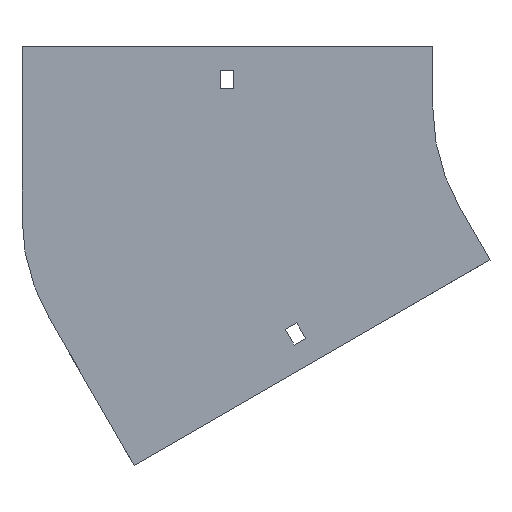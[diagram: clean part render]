
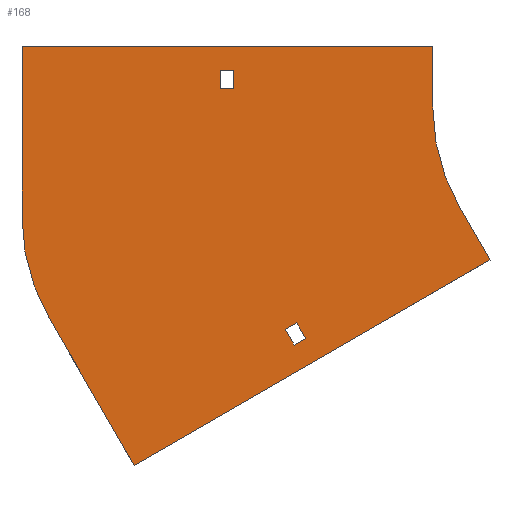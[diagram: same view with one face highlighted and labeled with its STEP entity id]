
A CAD part, front view. The second image highlights one B-rep face of the part: STEP entity #168.
In plain terms, the highlighted planar face has unit normal (0, -1, 0).
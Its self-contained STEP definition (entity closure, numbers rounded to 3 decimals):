
#27 = ORIENTED_EDGE ( 'NONE', *, *, #990, .F. ) ;
#30 = LINE ( 'NONE', #1203, #1165 ) ;
#32 = VERTEX_POINT ( 'NONE', #467 ) ;
#39 = VERTEX_POINT ( 'NONE', #934 ) ;
#48 = LINE ( 'NONE', #1691, #1322 ) ;
#50 = ORIENTED_EDGE ( 'NONE', *, *, #1058, .F. ) ;
#94 = VERTEX_POINT ( 'NONE', #642 ) ;
#95 = EDGE_CURVE ( 'NONE', #1770, #1079, #1098, .T. ) ;
#103 = CARTESIAN_POINT ( 'NONE',  ( -205.25, 0., 9. ) ) ;
#127 = CARTESIAN_POINT ( 'NONE',  ( -168.752, 0., -118.213 ) ) ;
#132 = VERTEX_POINT ( 'NONE', #1146 ) ;
#168 = ADVANCED_FACE ( 'NONE', ( #661, #689, #1280 ), #1137, .T. ) ;
#196 = VERTEX_POINT ( 'NONE', #1709 ) ;
#197 = CARTESIAN_POINT ( 'NONE',  ( -198.75, 0., 18. ) ) ;
#210 = DIRECTION ( 'NONE',  ( 0., -1., 0. ) ) ;
#228 = EDGE_LOOP ( 'NONE', ( #819, #749, #1803, #1155 ) ) ;
#253 = LINE ( 'NONE', #1900, #1157 ) ;
#265 = DIRECTION ( 'NONE',  ( -0.5, 0., 0.866 ) ) ;
#269 = LINE ( 'NONE', #127, #1291 ) ;
#332 = CARTESIAN_POINT ( 'NONE',  ( -168.752, 0., -118.213 ) ) ;
#334 = EDGE_CURVE ( 'NONE', #32, #498, #253, .T. ) ;
#395 = CARTESIAN_POINT ( 'NONE',  ( -71.603, 0., -75.981 ) ) ;
#398 = VERTEX_POINT ( 'NONE', #197 ) ;
#413 = DIRECTION ( 'NONE',  ( 0., -1., 0. ) ) ;
#432 = DIRECTION ( 'NONE',  ( 0., 0., -1. ) ) ;
#461 = EDGE_LOOP ( 'NONE', ( #1887, #1008, #50, #1505, #1192, #536, #27, #1324 ) ) ;
#467 = CARTESIAN_POINT ( 'NONE',  ( -205.25, 0., 9. ) ) ;
#471 = DIRECTION ( 'NONE',  ( -0.5, 0., 0.866 ) ) ;
#475 = EDGE_CURVE ( 'NONE', #39, #1759, #1085, .T. ) ;
#487 = EDGE_LOOP ( 'NONE', ( #1560, #1235, #1345, #1639 ) ) ;
#498 = VERTEX_POINT ( 'NONE', #1076 ) ;
#536 = ORIENTED_EDGE ( 'NONE', *, *, #95, .F. ) ;
#537 = DIRECTION ( 'NONE',  ( -0.866, 0., -0.5 ) ) ;
#549 = DIRECTION ( 'NONE',  ( 0., 0., -1. ) ) ;
#553 = VECTOR ( 'NONE', #1811, 1000. ) ;
#572 = CARTESIAN_POINT ( 'NONE',  ( -198.75, 0., 9. ) ) ;
#625 = AXIS2_PLACEMENT_3D ( 'NONE', #1554, #210, #810 ) ;
#642 = CARTESIAN_POINT ( 'NONE',  ( -163.123, 0., -114.963 ) ) ;
#644 = LINE ( 'NONE', #103, #1692 ) ;
#654 = LINE ( 'NONE', #1746, #1040 ) ;
#661 = FACE_BOUND ( 'NONE', #228, .T. ) ;
#689 = FACE_OUTER_BOUND ( 'NONE', #461, .T. ) ;
#693 = DIRECTION ( 'NONE',  ( 0., 1., 0. ) ) ;
#701 = LINE ( 'NONE', #1303, #1911 ) ;
#715 = EDGE_CURVE ( 'NONE', #398, #1732, #873, .T. ) ;
#730 = DIRECTION ( 'NONE',  ( 0.866, 0., 0.5 ) ) ;
#749 = ORIENTED_EDGE ( 'NONE', *, *, #1213, .T. ) ;
#787 = AXIS2_PLACEMENT_3D ( 'NONE', #1608, #693, #1886 ) ;
#804 = DIRECTION ( 'NONE',  ( 0., 0., 1. ) ) ;
#808 = CARTESIAN_POINT ( 'NONE',  ( -304., 0., -54.662 ) ) ;
#810 = DIRECTION ( 'NONE',  ( 0., 0., -1. ) ) ;
#819 = ORIENTED_EDGE ( 'NONE', *, *, #334, .T. ) ;
#825 = EDGE_CURVE ( 'NONE', #94, #1578, #1660, .T. ) ;
#841 = LINE ( 'NONE', #1279, #1871 ) ;
#854 = VERTEX_POINT ( 'NONE', #1083 ) ;
#873 = LINE ( 'NONE', #572, #1748 ) ;
#882 = DIRECTION ( 'NONE',  ( 0., 0., -1. ) ) ;
#907 = VECTOR ( 'NONE', #537, 1000. ) ;
#912 = CIRCLE ( 'NONE', #952, 100. ) ;
#934 = CARTESIAN_POINT ( 'NONE',  ( -173.252, 0., -110.419 ) ) ;
#952 = AXIS2_PLACEMENT_3D ( 'NONE', #1293, #413, #882 ) ;
#974 = DIRECTION ( 'NONE',  ( 0.5, 0., -0.866 ) ) ;
#985 = DIRECTION ( 'NONE',  ( -0.866, 0., -0.5 ) ) ;
#990 = EDGE_CURVE ( 'NONE', #854, #1770, #912, .T. ) ;
#1008 = ORIENTED_EDGE ( 'NONE', *, *, #1252, .F. ) ;
#1012 = CARTESIAN_POINT ( 'NONE',  ( -100., 0., 30. ) ) ;
#1013 = VECTOR ( 'NONE', #265, 1000. ) ;
#1040 = VECTOR ( 'NONE', #1568, 1000. ) ;
#1050 = DIRECTION ( 'NONE',  ( 1., 0., 0. ) ) ;
#1058 = EDGE_CURVE ( 'NONE', #1466, #1673, #1287, .T. ) ;
#1075 = EDGE_CURVE ( 'NONE', #132, #1466, #1742, .T. ) ;
#1076 = CARTESIAN_POINT ( 'NONE',  ( -205.25, 0., 18. ) ) ;
#1079 = VERTEX_POINT ( 'NONE', #395 ) ;
#1083 = CARTESIAN_POINT ( 'NONE',  ( -100., 0., 0. ) ) ;
#1085 = LINE ( 'NONE', #1217, #553 ) ;
#1098 = LINE ( 'NONE', #1688, #1718 ) ;
#1100 = EDGE_CURVE ( 'NONE', #1273, #854, #701, .T. ) ;
#1102 = DIRECTION ( 'NONE',  ( -1., 0., 0. ) ) ;
#1137 = PLANE ( 'NONE',  #625 ) ;
#1146 = CARTESIAN_POINT ( 'NONE',  ( -248.272, 0., -177.981 ) ) ;
#1155 = ORIENTED_EDGE ( 'NONE', *, *, #1350, .T. ) ;
#1157 = VECTOR ( 'NONE', #1348, 1000. ) ;
#1158 = CARTESIAN_POINT ( 'NONE',  ( -248.272, 0., -177.981 ) ) ;
#1165 = VECTOR ( 'NONE', #1050, 1000. ) ;
#1192 = ORIENTED_EDGE ( 'NONE', *, *, #1881, .F. ) ;
#1203 = CARTESIAN_POINT ( 'NONE',  ( -205.25, 0., 18. ) ) ;
#1213 = EDGE_CURVE ( 'NONE', #498, #398, #30, .T. ) ;
#1217 = CARTESIAN_POINT ( 'NONE',  ( -173.252, 0., -110.419 ) ) ;
#1232 = CARTESIAN_POINT ( 'NONE',  ( -198.75, 0., 9. ) ) ;
#1235 = ORIENTED_EDGE ( 'NONE', *, *, #475, .F. ) ;
#1252 = EDGE_CURVE ( 'NONE', #1673, #196, #48, .T. ) ;
#1273 = VERTEX_POINT ( 'NONE', #1012 ) ;
#1279 = CARTESIAN_POINT ( 'NONE',  ( -173.252, 0., -110.419 ) ) ;
#1280 = FACE_BOUND ( 'NONE', #487, .T. ) ;
#1287 = CIRCLE ( 'NONE', #787, 100. ) ;
#1291 = VECTOR ( 'NONE', #730, 1000. ) ;
#1293 = CARTESIAN_POINT ( 'NONE',  ( 0., 0., 0. ) ) ;
#1303 = CARTESIAN_POINT ( 'NONE',  ( -100., 0., 30. ) ) ;
#1322 = VECTOR ( 'NONE', #804, 1000. ) ;
#1324 = ORIENTED_EDGE ( 'NONE', *, *, #1100, .F. ) ;
#1329 = EDGE_CURVE ( 'NONE', #196, #1273, #654, .T. ) ;
#1345 = ORIENTED_EDGE ( 'NONE', *, *, #1890, .F. ) ;
#1348 = DIRECTION ( 'NONE',  ( 0., 0., 1. ) ) ;
#1350 = EDGE_CURVE ( 'NONE', #1732, #32, #644, .T. ) ;
#1374 = CARTESIAN_POINT ( 'NONE',  ( -167.623, 0., -107.169 ) ) ;
#1394 = CARTESIAN_POINT ( 'NONE',  ( -86.603, 0., -50. ) ) ;
#1466 = VERTEX_POINT ( 'NONE', #1500 ) ;
#1500 = CARTESIAN_POINT ( 'NONE',  ( -290.603, 0., -104.662 ) ) ;
#1505 = ORIENTED_EDGE ( 'NONE', *, *, #1075, .F. ) ;
#1510 = EDGE_CURVE ( 'NONE', #1759, #94, #269, .T. ) ;
#1554 = CARTESIAN_POINT ( 'NONE',  ( 0., 0., 0. ) ) ;
#1560 = ORIENTED_EDGE ( 'NONE', *, *, #1510, .F. ) ;
#1568 = DIRECTION ( 'NONE',  ( 1., 0., 0. ) ) ;
#1578 = VERTEX_POINT ( 'NONE', #1843 ) ;
#1608 = CARTESIAN_POINT ( 'NONE',  ( -204., 0., -54.662 ) ) ;
#1639 = ORIENTED_EDGE ( 'NONE', *, *, #825, .F. ) ;
#1660 = LINE ( 'NONE', #1374, #1721 ) ;
#1673 = VERTEX_POINT ( 'NONE', #808 ) ;
#1688 = CARTESIAN_POINT ( 'NONE',  ( -86.603, 0., -50. ) ) ;
#1691 = CARTESIAN_POINT ( 'NONE',  ( -304., 0., -54.662 ) ) ;
#1692 = VECTOR ( 'NONE', #1102, 1000. ) ;
#1709 = CARTESIAN_POINT ( 'NONE',  ( -304., 0., 30. ) ) ;
#1718 = VECTOR ( 'NONE', #974, 1000. ) ;
#1721 = VECTOR ( 'NONE', #471, 1000. ) ;
#1732 = VERTEX_POINT ( 'NONE', #1232 ) ;
#1742 = LINE ( 'NONE', #1158, #1013 ) ;
#1746 = CARTESIAN_POINT ( 'NONE',  ( -304., 0., 30. ) ) ;
#1748 = VECTOR ( 'NONE', #432, 1000. ) ;
#1759 = VERTEX_POINT ( 'NONE', #332 ) ;
#1770 = VERTEX_POINT ( 'NONE', #1394 ) ;
#1803 = ORIENTED_EDGE ( 'NONE', *, *, #715, .T. ) ;
#1811 = DIRECTION ( 'NONE',  ( 0.5, 0., -0.866 ) ) ;
#1843 = CARTESIAN_POINT ( 'NONE',  ( -167.623, 0., -107.169 ) ) ;
#1844 = LINE ( 'NONE', #1883, #907 ) ;
#1871 = VECTOR ( 'NONE', #985, 1000. ) ;
#1881 = EDGE_CURVE ( 'NONE', #1079, #132, #1844, .T. ) ;
#1883 = CARTESIAN_POINT ( 'NONE',  ( -71.603, 0., -75.981 ) ) ;
#1886 = DIRECTION ( 'NONE',  ( 0., 0., 1. ) ) ;
#1887 = ORIENTED_EDGE ( 'NONE', *, *, #1329, .F. ) ;
#1890 = EDGE_CURVE ( 'NONE', #1578, #39, #841, .T. ) ;
#1900 = CARTESIAN_POINT ( 'NONE',  ( -205.25, 0., 9. ) ) ;
#1911 = VECTOR ( 'NONE', #549, 1000. ) ;
